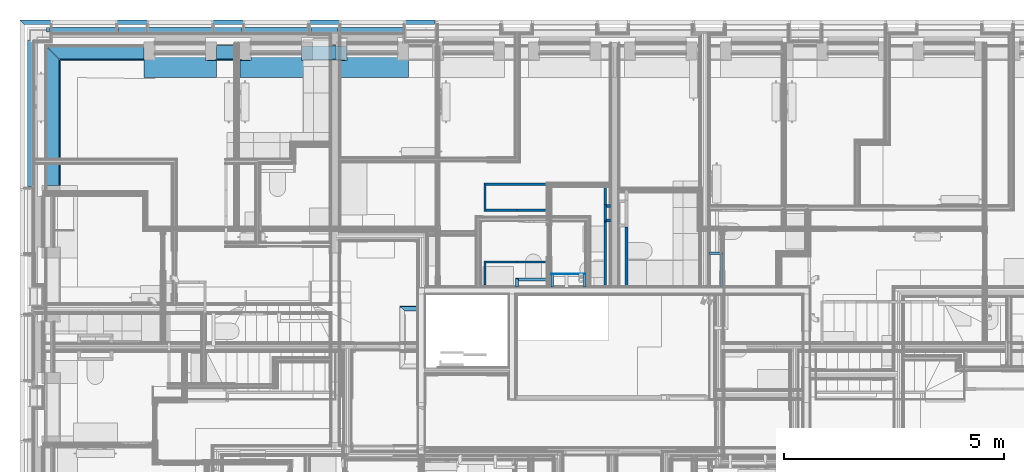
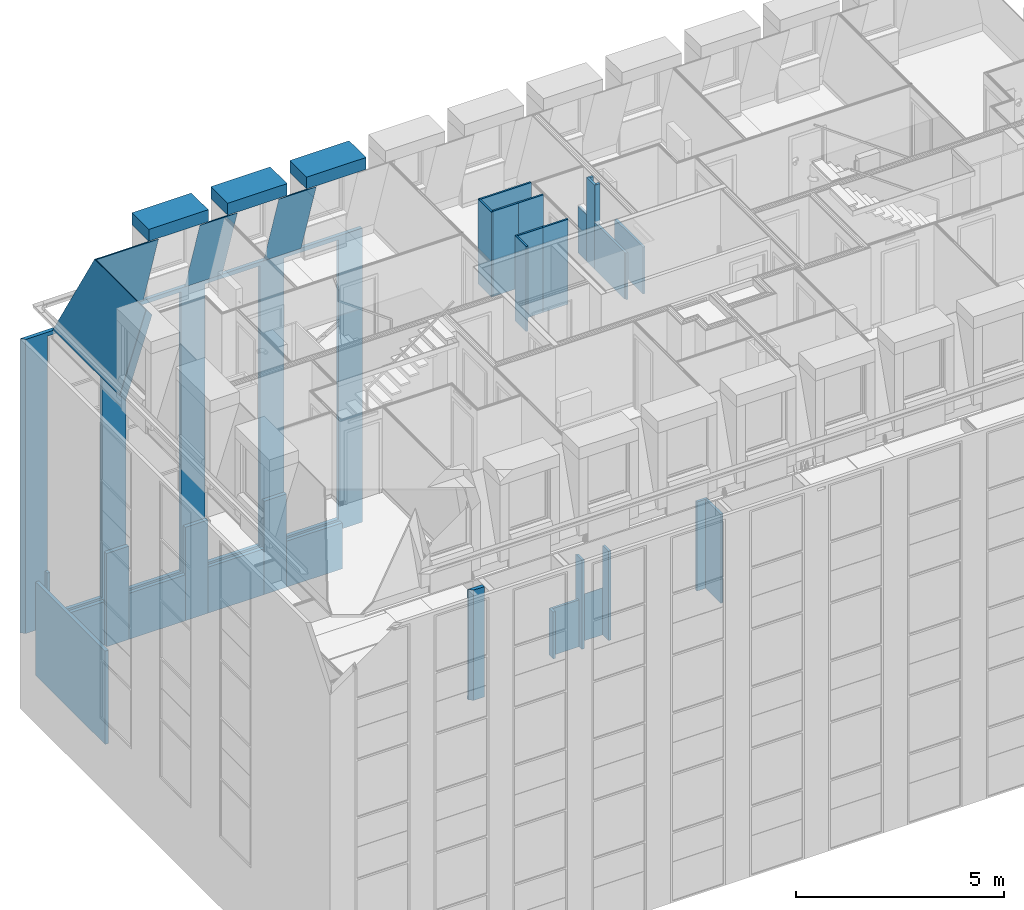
# One storey, part 4 of 169: 42 walls, 4 openings.
"""IFC2X3 building model written with IfcOpenShell, lengths in metres."""

from ifc_helpers import new_model, entity, si_unit, converted_unit, derived_unit, money_unit, direction, frame, frame_2d, origin_with_axes, place, context, subcontext, project, spatial, polyline, rectangle, outline, extrude, clip, halfspace, bounded_halfspace, material, layer, layer_set, layer_usage, type_object, element, save


model = new_model("IFC2X3")

# Units and contexts
model_context = context("Model", 3, precision=1e-05, world=origin_with_axes(), true_north=direction((0.0, 1.0)))
body_context = subcontext(model_context, "Body", "Model", "MODEL_VIEW", scale=1.0)
ifc_project = project(units=[si_unit("LENGTHUNIT", "METRE"), si_unit("AREAUNIT", "SQUARE_METRE"), si_unit("VOLUMEUNIT", "CUBIC_METRE"), si_unit("ABSORBEDDOSEUNIT", "GRAY"), si_unit("AMOUNTOFSUBSTANCEUNIT", "MOLE"), si_unit("DOSEEQUIVALENTUNIT", "SIEVERT"), si_unit("ELECTRICCAPACITANCEUNIT", "FARAD"), si_unit("ELECTRICCHARGEUNIT", "COULOMB"), si_unit("ELECTRICCONDUCTANCEUNIT", "SIEMENS"), si_unit("ELECTRICCURRENTUNIT", "AMPERE"), si_unit("ELECTRICRESISTANCEUNIT", "OHM"), si_unit("ELECTRICVOLTAGEUNIT", "VOLT"), si_unit("ENERGYUNIT", "JOULE"), si_unit("FORCEUNIT", "NEWTON"), si_unit("FREQUENCYUNIT", "HERTZ"), si_unit("ILLUMINANCEUNIT", "LUX"), si_unit("INDUCTANCEUNIT", "HENRY"), si_unit("LUMINOUSFLUXUNIT", "LUMEN"), si_unit("LUMINOUSINTENSITYUNIT", "CANDELA"), si_unit("MAGNETICFLUXDENSITYUNIT", "TESLA"), si_unit("MAGNETICFLUXUNIT", "WEBER"), si_unit("MASSUNIT", "GRAM"), converted_unit("PLANEANGLEUNIT", "degree", entity("IfcReal", 0.0174532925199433), si_unit("PLANEANGLEUNIT", "RADIAN"), dimensions=[0, 0, 0, 0, 0, 0, 0]), si_unit("POWERUNIT", "WATT"), si_unit("PRESSUREUNIT", "PASCAL"), si_unit("RADIOACTIVITYUNIT", "BECQUEREL"), si_unit("SOLIDANGLEUNIT", "STERADIAN"), si_unit("THERMODYNAMICTEMPERATUREUNIT", "KELVIN"), si_unit("TIMEUNIT", "SECOND"), derived_unit("ACCELERATIONUNIT", [(si_unit("LENGTHUNIT", "METRE"), 1), (si_unit("TIMEUNIT", "SECOND"), -2)]), derived_unit("ANGULARVELOCITYUNIT", [(converted_unit("PLANEANGLEUNIT", "degree", entity("IfcReal", 0.0174532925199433), si_unit("PLANEANGLEUNIT", "RADIAN"), dimensions=[0, 0, 0, 0, 0, 0, 0]), 1), (si_unit("TIMEUNIT", "SECOND"), -1)]), derived_unit("CURVATUREUNIT", [(converted_unit("PLANEANGLEUNIT", "degree", entity("IfcReal", 0.0174532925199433), si_unit("PLANEANGLEUNIT", "RADIAN"), dimensions=[0, 0, 0, 0, 0, 0, 0]), 1), (si_unit("LENGTHUNIT", "METRE"), -1)]), derived_unit("DYNAMICVISCOSITYUNIT", [(si_unit("PRESSUREUNIT", "PASCAL"), 1), (si_unit("TIMEUNIT", "SECOND"), 1)]), derived_unit("HEATFLUXDENSITYUNIT", [(si_unit("POWERUNIT", "WATT"), 1), (si_unit("LENGTHUNIT", "METRE"), -2)]), derived_unit("HEATINGVALUEUNIT", [(si_unit("ENERGYUNIT", "JOULE"), 1), (si_unit("MASSUNIT", "GRAM"), -1)]), derived_unit("INTEGERCOUNTRATEUNIT", [(si_unit("TIMEUNIT", "SECOND"), -1)]), derived_unit("IONCONCENTRATIONUNIT", [(si_unit("MASSUNIT", "GRAM"), 1), (si_unit("VOLUMEUNIT", "CUBIC_METRE"), -1)]), derived_unit("ISOTHERMALMOISTURECAPACITYUNIT", [(si_unit("VOLUMEUNIT", "CUBIC_METRE"), 1), (si_unit("MASSUNIT", "GRAM"), -1)]), derived_unit("KINEMATICVISCOSITYUNIT", [(si_unit("AREAUNIT", "SQUARE_METRE"), 1), (si_unit("TIMEUNIT", "SECOND"), -1)]), derived_unit("LINEARFORCEUNIT", [(si_unit("FORCEUNIT", "NEWTON"), 1), (si_unit("LENGTHUNIT", "METRE"), -1)]), derived_unit("LINEARMOMENTUNIT", [(si_unit("FORCEUNIT", "NEWTON"), 1), (si_unit("LENGTHUNIT", "METRE"), -1)]), derived_unit("LINEARSTIFFNESSUNIT", [(si_unit("FORCEUNIT", "NEWTON"), 1), (si_unit("LENGTHUNIT", "METRE"), -1)]), derived_unit("LINEARVELOCITYUNIT", [(si_unit("LENGTHUNIT", "METRE"), 1), (si_unit("TIMEUNIT", "SECOND"), -1)]), derived_unit("LUMINOUSINTENSITYDISTRIBUTIONUNIT", [(si_unit("LUMINOUSINTENSITYUNIT", "CANDELA"), 1), (si_unit("LUMINOUSFLUXUNIT", "LUMEN"), -1)]), derived_unit("MASSDENSITYUNIT", [(si_unit("MASSUNIT", "GRAM"), 1), (si_unit("VOLUMEUNIT", "CUBIC_METRE"), -1)]), derived_unit("MASSFLOWRATEUNIT", [(si_unit("MASSUNIT", "GRAM"), 1), (si_unit("TIMEUNIT", "SECOND"), -1)]), derived_unit("MASSPERLENGTHUNIT", [(si_unit("MASSUNIT", "GRAM"), 1), (si_unit("LENGTHUNIT", "METRE"), -1)]), derived_unit("MODULUSOFELASTICITYUNIT", [(si_unit("FORCEUNIT", "NEWTON"), 1), (si_unit("AREAUNIT", "SQUARE_METRE"), -1)]), derived_unit("MODULUSOFLINEARSUBGRADEREACTIONUNIT", [(si_unit("FORCEUNIT", "NEWTON"), 1), (si_unit("LENGTHUNIT", "METRE"), -2)]), derived_unit("MODULUSOFROTATIONALSUBGRADEREACTIONUNIT", [(si_unit("FORCEUNIT", "NEWTON"), 1), (si_unit("LENGTHUNIT", "METRE"), 1)]), derived_unit("MODULUSOFSUBGRADEREACTIONUNIT", [(si_unit("FORCEUNIT", "NEWTON"), 1), (si_unit("VOLUMEUNIT", "CUBIC_METRE"), -1)]), derived_unit("MOISTUREDIFFUSIVITYUNIT", [(si_unit("VOLUMEUNIT", "CUBIC_METRE"), 1), (si_unit("TIMEUNIT", "SECOND"), -1)]), derived_unit("MOLECULARWEIGHTUNIT", [(si_unit("MASSUNIT", "GRAM"), 1), (si_unit("AMOUNTOFSUBSTANCEUNIT", "MOLE"), -1)]), derived_unit("PLANARFORCEUNIT", [(si_unit("FORCEUNIT", "NEWTON"), 1), (si_unit("LENGTHUNIT", "METRE"), -2)]), derived_unit("ROTATIONALFREQUENCYUNIT", [(si_unit("TIMEUNIT", "SECOND"), -1)]), derived_unit("ROTATIONALMASSUNIT", [(si_unit("MASSUNIT", "GRAM"), 1), (si_unit("LENGTHUNIT", "METRE"), 2)]), derived_unit("ROTATIONALSTIFFNESSUNIT", [(si_unit("FORCEUNIT", "NEWTON"), 1), (si_unit("LENGTHUNIT", "METRE"), 1), (converted_unit("PLANEANGLEUNIT", "degree", entity("IfcReal", 0.0174532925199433), si_unit("PLANEANGLEUNIT", "RADIAN"), dimensions=[0, 0, 0, 0, 0, 0, 0]), -1)]), derived_unit("SECTIONAREAINTEGRALUNIT", [(si_unit("LENGTHUNIT", "METRE"), 5)]), derived_unit("SECTIONMODULUSUNIT", [(si_unit("LENGTHUNIT", "METRE"), 3)]), derived_unit("SHEARMODULUSUNIT", [(si_unit("FORCEUNIT", "NEWTON"), 1), (si_unit("AREAUNIT", "SQUARE_METRE"), -1)]), derived_unit("SOUNDPOWERUNIT", [(si_unit("ENERGYUNIT", "JOULE"), 1), (si_unit("TIMEUNIT", "SECOND"), -1)]), derived_unit("SPECIFICHEATCAPACITYUNIT", [(si_unit("FORCEUNIT", "NEWTON"), 1), (si_unit("MASSUNIT", "GRAM"), -1), (si_unit("THERMODYNAMICTEMPERATUREUNIT", "KELVIN"), -1)]), derived_unit("TEMPERATUREGRADIENTUNIT", [(si_unit("THERMODYNAMICTEMPERATUREUNIT", "KELVIN"), 1), (si_unit("LENGTHUNIT", "METRE"), -1)]), derived_unit("THERMALADMITTANCEUNIT", [(si_unit("POWERUNIT", "WATT"), 1), (si_unit("AREAUNIT", "SQUARE_METRE"), -1), (si_unit("THERMODYNAMICTEMPERATUREUNIT", "KELVIN"), -1)]), derived_unit("THERMALCONDUCTANCEUNIT", [(si_unit("POWERUNIT", "WATT"), 1), (si_unit("LENGTHUNIT", "METRE"), -1), (si_unit("THERMODYNAMICTEMPERATUREUNIT", "KELVIN"), -1)]), derived_unit("THERMALEXPANSIONCOEFFICIENTUNIT", [(si_unit("THERMODYNAMICTEMPERATUREUNIT", "KELVIN"), -1)]), derived_unit("THERMALRESISTANCEUNIT", [(si_unit("AREAUNIT", "SQUARE_METRE"), 1), (si_unit("POWERUNIT", "WATT"), -1)]), derived_unit("THERMALTRANSMITTANCEUNIT", [(si_unit("POWERUNIT", "WATT"), 1), (si_unit("AREAUNIT", "SQUARE_METRE"), -1), (si_unit("THERMODYNAMICTEMPERATUREUNIT", "KELVIN"), -1)]), derived_unit("TORQUEUNIT", [(si_unit("FORCEUNIT", "NEWTON"), 1), (si_unit("LENGTHUNIT", "METRE"), 1)]), derived_unit("VAPORPERMEABILITYUNIT", [(si_unit("MASSUNIT", "GRAM"), 1), (si_unit("TIMEUNIT", "SECOND"), -1)]), derived_unit("VOLUMETRICFLOWRATEUNIT", [(si_unit("VOLUMEUNIT", "CUBIC_METRE"), 1), (si_unit("TIMEUNIT", "SECOND"), -1)]), derived_unit("WARPINGCONSTANTUNIT", [(si_unit("LENGTHUNIT", "METRE"), 6)]), derived_unit("WARPINGMOMENTUNIT", [(si_unit("FORCEUNIT", "NEWTON"), 1), (si_unit("LENGTHUNIT", "METRE"), 2)]), money_unit("GBP")], contexts=[model_context])

# Site, building, storey
site_placement = place(None, origin_with_axes())
site = spatial("IfcSite", under=ifc_project, at=site_placement, Name="Site", CompositionType="ELEMENT")
building_placement = place(site_placement, origin_with_axes())
building = spatial("IfcBuilding", under=site, at=building_placement, Name="Building01", CompositionType="ELEMENT")
storey_placement = place(building_placement, frame((0.0, 0.0, 5.15), z_axis=(0.0, 0.0, 1.0), x_axis=(1.0, 0.0, 0.0)))
storey = spatial("IfcBuildingStorey", under=building, at=storey_placement, Name="1F", CompositionType="ELEMENT", Elevation=5.15)

# Wall, openings
ifc_material_1 = material(Name="A_BSUK_WallsExternal_Brick")
ifc_layer_1 = layer(ifc_material_1, 0.1, ventilated=False)
ifc_layer_set_1 = layer_set([ifc_layer_1])
ifc_layer_usage_1 = layer_usage(ifc_layer_set_1, "AXIS2", "POSITIVE", 0.0)
wall_type_1 = type_object("IfcWallType", Name="A-Walls-ExternalBrick", PredefinedType="NOTDEFINED")
wall_1_placement = place(storey_placement, frame((9.443277, 14.9, 1.035), z_axis=(0.0, 0.0, 1.0), x_axis=(-1.0, 0.0, 0.0)))
wall_1 = element("IfcWallStandardCase", 1, at=wall_1_placement, inside=storey, type_object=wall_type_1, material=ifc_layer_usage_1, Name="A-Walls-ExternalBrick", ObjectType="A-Walls-ExternalBrick", context=body_context, shape_type="SweptSolid", body=[
    extrude(outline(polyline([(9.343277, 0.1), (0.0, 0.1), (0.0, 0.0), (9.443277, 0.0), (9.343277, 0.1)])), origin_with_axes(), (0.0, 0.0, 1.0), 8.635238),
])
opening_1_placement = place(wall_1_placement, frame((0.653277, 0.0, 0.315918), z_axis=(0.0, 0.0, 1.0), x_axis=(1.0, 0.0, 0.0)))
element("IfcOpeningElement", 2, at=opening_1_placement, cuts=wall_1, Name="Opening", ObjectType="Opening", context=body_context, shape_type="SweptSolid", body=[
    extrude(rectangle(XDim=1.52, YDim=8.2, at=frame_2d((-0.76, 4.1), x_axis=(1.0, 0.0))), frame((0.0, 0.0, 0.0), z_axis=(0.0, 1.0, 0.0), x_axis=(-1.0, 0.0, 0.0)), (0.0, 0.0, 1.0), 0.1),
])
opening_2_placement = place(wall_1_placement, frame((2.843277, 0.0, 0.315918), z_axis=(0.0, 0.0, 1.0), x_axis=(1.0, 0.0, 0.0)))
element("IfcOpeningElement", 3, at=opening_2_placement, cuts=wall_1, Name="Opening", ObjectType="Opening", context=body_context, shape_type="SweptSolid", body=[
    extrude(rectangle(XDim=1.52, YDim=8.2, at=frame_2d((-0.76, 4.1), x_axis=(1.0, 0.0))), frame((0.0, 0.0, 0.0), z_axis=(0.0, 1.0, 0.0), x_axis=(-1.0, 0.0, 0.0)), (0.0, 0.0, 1.0), 0.1),
])
opening_3_placement = place(wall_1_placement, frame((5.033277, 0.0, 0.315918), z_axis=(0.0, 0.0, 1.0), x_axis=(1.0, 0.0, 0.0)))
element("IfcOpeningElement", 4, at=opening_3_placement, cuts=wall_1, Name="Opening", ObjectType="Opening", context=body_context, shape_type="SweptSolid", body=[
    extrude(rectangle(XDim=1.52, YDim=8.2, at=frame_2d((-0.76, 4.1), x_axis=(1.0, 0.0))), frame((0.0, 0.0, 0.0), z_axis=(0.0, 1.0, 0.0), x_axis=(-1.0, 0.0, 0.0)), (0.0, 0.0, 1.0), 0.1),
])
opening_4_placement = place(wall_1_placement, frame((7.223277, 0.0, 0.315918), z_axis=(0.0, 0.0, 1.0), x_axis=(1.0, 0.0, 0.0)))
element("IfcOpeningElement", 5, at=opening_4_placement, cuts=wall_1, Name="Opening", ObjectType="Opening", context=body_context, shape_type="SweptSolid", body=[
    extrude(rectangle(XDim=1.52, YDim=8.2, at=frame_2d((-0.76, 4.1), x_axis=(1.0, 0.0))), frame((0.0, 0.0, 0.0), z_axis=(0.0, 1.0, 0.0), x_axis=(-1.0, 0.0, 0.0)), (0.0, 0.0, 1.0), 0.1),
])

# Walls
ifc_material_2 = material(Name="A_BSUK_WallsExternal_Block")
ifc_layer_2 = layer(ifc_material_2, 0.1, ventilated=False)
ifc_layer_set_2 = layer_set([ifc_layer_2])
ifc_layer_usage_2 = layer_usage(ifc_layer_set_2, "AXIS2", "POSITIVE", 0.0)
wall_type_2 = type_object("IfcWallType", Name="A-Walls-ExternalBlock", PredefinedType="NOTDEFINED")
wall_2_placement = place(storey_placement, frame((0.6, 14.63, 0.0), z_axis=(0.0, 0.0, 1.0), x_axis=(1.0, 0.0, 0.0)))
element("IfcWallStandardCase", 6, at=wall_2_placement, inside=storey, type_object=wall_type_2, material=ifc_layer_usage_2, Name="A-Walls-ExternalBlock", ObjectType="A-Walls-ExternalBlock", context=body_context, shape_type="SweptSolid", body=[
    extrude(rectangle(XDim=0.077, YDim=0.1, at=frame_2d((0.0385, 0.05), x_axis=(-1.0, 0.0))), origin_with_axes(), (0.0, 0.0, 1.0), 2.74),
])
wall_3_placement = place(storey_placement, frame((0.17, 14.45, 0.0), z_axis=(0.0, 0.0, 1.0), x_axis=(0.0, -1.0, 0.0)))
element("IfcWallStandardCase", 7, at=wall_3_placement, inside=storey, type_object=wall_type_2, material=ifc_layer_usage_2, Name="A-Walls-ExternalBlock", ObjectType="A-Walls-ExternalBlock", context=body_context, shape_type="SweptSolid", body=[
    extrude(rectangle(XDim=3.347, YDim=0.1, at=frame_2d((1.6735, 0.05), x_axis=(-1.0, 0.0))), origin_with_axes(), (0.0, 0.0, 1.0), 2.74),
])
for number, where, z_axis, x_axis, name in (
    (8, (2.243, 14.63, 0.0), (0.0, 0.0, 1.0), (1.0, 0.0, 0.0), "A-Walls-ExternalBlock"),
    (9, (4.433, 14.63, 0.0), (0.0, 0.0, 1.0), (1.0, 0.0, 0.0), "A-Walls-ExternalBlock"),
):
    element("IfcWallStandardCase", number, at=place(storey_placement, frame(where, z_axis=z_axis, x_axis=x_axis)), inside=storey, type_object=wall_type_2, material=ifc_layer_usage_2, Name=name, ObjectType="A-Walls-ExternalBlock", context=body_context, shape_type="SweptSolid", body=[
        extrude(rectangle(XDim=0.624, YDim=0.1, at=frame_2d((0.312, 0.05), x_axis=(-1.0, 0.0))), origin_with_axes(), (0.0, 0.0, 1.0), 2.74),
    ])
wall_4_placement = place(storey_placement, frame((6.622876, 14.63, 0.0), z_axis=(0.0, 0.0, 1.0), x_axis=(1.0, 0.0, 0.0)))
element("IfcWallStandardCase", 10, at=wall_4_placement, inside=storey, type_object=wall_type_2, material=ifc_layer_usage_2, Name="A-Walls-ExternalBlock", ObjectType="A-Walls-ExternalBlock", context=body_context, shape_type="SweptSolid", body=[
    extrude(rectangle(XDim=0.624124, YDim=0.1, at=frame_2d((0.312062, 0.05), x_axis=(-1.0, 0.0))), origin_with_axes(), (0.0, 0.0, 1.0), 2.74),
])
wall_5_placement = place(storey_placement, frame((0.677, 14.63, 0.0), z_axis=(0.0, 0.0, 1.0), x_axis=(1.0, 0.0, 0.0)))
element("IfcWallStandardCase", 11, at=wall_5_placement, inside=storey, type_object=wall_type_2, material=ifc_layer_usage_2, Name="A-Walls-ExternalBlock", ObjectType="A-Walls-ExternalBlock", context=body_context, shape_type="SweptSolid", body=[
    extrude(rectangle(XDim=1.518, YDim=0.1, at=frame_2d((0.759, 0.05), x_axis=(-1.0, 0.0))), origin_with_axes(), (0.0, 0.0, 1.0), 1.35),
])
for number, where, z_axis, x_axis, name in (
    (12, (2.867, 14.63, 0.0), (0.0, 0.0, 1.0), (1.0, 0.0, 0.0), "A-Walls-ExternalBlock"),
    (13, (5.056876, 14.63, 0.0), (0.0, 0.0, 1.0), (1.0, 0.0, 0.0), "A-Walls-ExternalBlock"),
    (14, (7.224, 14.63, 0.0), (0.0, 0.0, 1.0), (1.0, 0.0, 0.0), "A-Walls-ExternalBlock"),
):
    element("IfcWallStandardCase", number, at=place(storey_placement, frame(where, z_axis=z_axis, x_axis=x_axis)), inside=storey, type_object=wall_type_2, material=ifc_layer_usage_2, Name=name, ObjectType="A-Walls-ExternalBlock", context=body_context, shape_type="SweptSolid", body=[
        extrude(rectangle(XDim=1.566, YDim=0.1, at=frame_2d((0.783, 0.05), x_axis=(1.0, 0.0))), origin_with_axes(), (0.0, 0.0, 1.0), 1.35),
    ])
ifc_material_3 = material(Name="A_BSUK_WallsInternal")
ifc_layer_3 = layer(ifc_material_3, 0.05, ventilated=False)
ifc_layer_set_3 = layer_set([ifc_layer_3])
ifc_layer_usage_3 = layer_usage(ifc_layer_set_3, "AXIS2", "POSITIVE", 0.0)
wall_type_3 = type_object("IfcWallType", Name="A-Walls-Internal", PredefinedType="NOTDEFINED")
wall_6_placement = place(storey_placement, frame((12.017381, 9.41, 9.83), z_axis=(0.0, 0.0, 1.0), x_axis=(-1.0, 0.0, 0.0)))
element("IfcWallStandardCase", 15, at=wall_6_placement, inside=storey, type_object=wall_type_3, material=ifc_layer_usage_3, Name="A-Walls-Internal", ObjectType="A-Walls-Internal", context=body_context, shape_type="SweptSolid", body=[
    extrude(rectangle(XDim=0.05, YDim=0.7, at=frame_2d((0.35, 0.025), x_axis=(0.0, -1.0))), origin_with_axes(), (0.0, 0.0, 1.0), 2.5),
])
wall_7_placement = place(storey_placement, frame((11.317381, 9.41, 9.83), z_axis=(0.0, 0.0, 1.0), x_axis=(-1.0, 0.0, 0.0)))
element("IfcWallStandardCase", 16, at=wall_7_placement, inside=storey, type_object=wall_type_3, material=ifc_layer_usage_3, Name="A-Walls-Internal", ObjectType="A-Walls-Internal", context=body_context, shape_type="SweptSolid", body=[
    extrude(rectangle(XDim=0.7, YDim=0.05, at=frame_2d((0.35, 0.025), x_axis=(-1.0, 0.0))), origin_with_axes(), (0.0, 0.0, 1.0), 2.5),
])
wall_8_placement = place(storey_placement, frame((10.567381, 9.41, 9.83), z_axis=(0.0, 0.0, 1.0), x_axis=(0.0, -1.0, 0.0)))
element("IfcWallStandardCase", 17, at=wall_8_placement, inside=storey, type_object=wall_type_3, material=ifc_layer_usage_3, Name="A-Walls-Internal", ObjectType="A-Walls-Internal", context=body_context, shape_type="SweptSolid", body=[
    extrude(rectangle(XDim=0.05, YDim=0.542367, at=frame_2d((0.271184, 0.025), x_axis=(0.0, -1.0))), origin_with_axes(), (0.0, 0.0, 1.0), 2.5),
])
wall_9_placement = place(storey_placement, frame((11.317381, 10.593849, 9.83), z_axis=(0.0, 0.0, 1.0), x_axis=(-1.0, 0.0, 0.0)))
element("IfcWallStandardCase", 18, at=wall_9_placement, inside=storey, type_object=wall_type_3, material=ifc_layer_usage_3, Name="A-Walls-Internal", ObjectType="A-Walls-Internal", context=body_context, shape_type="SweptSolid", body=[
    extrude(rectangle(XDim=0.7, YDim=0.05, at=frame_2d((0.35, 0.025), x_axis=(-1.0, 0.0))), origin_with_axes(), (0.0, 0.0, 1.0), 2.5),
])
wall_10_placement = place(storey_placement, frame((12.017381, 10.593849, 9.83), z_axis=(0.0, 0.0, 1.0), x_axis=(-1.0, 0.0, 0.0)))
element("IfcWallStandardCase", 19, at=wall_10_placement, inside=storey, type_object=wall_type_3, material=ifc_layer_usage_3, Name="A-Walls-Internal", ObjectType="A-Walls-Internal", context=body_context, shape_type="SweptSolid", body=[
    extrude(rectangle(XDim=0.05, YDim=0.7, at=frame_2d((0.35, 0.025), x_axis=(0.0, -1.0))), origin_with_axes(), (0.0, 0.0, 1.0), 2.5),
])
wall_11_placement = place(storey_placement, frame((10.567381, 11.183849, 9.83), z_axis=(0.0, 0.0, 1.0), x_axis=(0.0, -1.0, 0.0)))
element("IfcWallStandardCase", 20, at=wall_11_placement, inside=storey, type_object=wall_type_3, material=ifc_layer_usage_3, Name="A-Walls-Internal", ObjectType="A-Walls-Internal", context=body_context, shape_type="SweptSolid", body=[
    extrude(outline(polyline([(0.64, 0.05), (0.05, 0.05), (0.0, 0.0), (0.64, 0.0), (0.64, 0.05)])), origin_with_axes(), (0.0, 0.0, 1.0), 2.5),
])
wall_12_placement = place(storey_placement, frame((12.017381, 11.183849, 9.83), z_axis=(0.0, 0.0, 1.0), x_axis=(-1.0, 0.0, 0.0)))
element("IfcWallStandardCase", 21, at=wall_12_placement, inside=storey, type_object=wall_type_3, material=ifc_layer_usage_3, Name="A-Walls-Internal", ObjectType="A-Walls-Internal", context=body_context, shape_type="SweptSolid", body=[
    extrude(outline(polyline([(1.4, 0.05), (0.0, 0.05), (0.0, 0.0), (1.45, 0.0), (1.4, 0.05)])), origin_with_axes(), (0.0, 0.0, 1.0), 2.5),
])
ifc_material_4 = material(Name="A_BSUK_OpeningsClearance")
ifc_layer_4 = layer(ifc_material_4, 0.05, ventilated=False)
ifc_material_5 = material(Name="A_BSUK_Walls_Timber")
ifc_layer_5 = layer(ifc_material_5, 0.015, ventilated=False)
ifc_layer_set_4 = layer_set([ifc_layer_4, ifc_layer_5])
ifc_layer_usage_4 = layer_usage(ifc_layer_set_4, "AXIS2", "POSITIVE", 0.0)
wall_type_4 = type_object("IfcWallType", Name="SHE_A-Walls_Type05c_PreWallShell_65mm", PredefinedType="NOTDEFINED")
wall_13_placement = place(storey_placement, frame((12.153871, 8.82, 0.0), z_axis=(0.0, 0.0, 1.0), x_axis=(0.0, 1.0, 0.0)))
element("IfcWallStandardCase", 22, at=wall_13_placement, inside=storey, type_object=wall_type_4, material=ifc_layer_usage_4, Name="5C", ObjectType="SHE_A-Walls_Type05c_PreWallShell_65mm", context=body_context, shape_type="SweptSolid", body=[
    extrude(outline(polyline([(0.285, 0.05), (0.3, 0.05), (0.3, 0.065), (0.0, 0.065), (0.0, 0.0), (0.285, 0.0), (0.285, 0.05)])), origin_with_axes(), (0.0, 0.0, 1.0), 2.615),
])
ifc_layer_set_5 = layer_set([ifc_layer_5, ifc_layer_4])
ifc_layer_usage_5 = layer_usage(ifc_layer_set_5, "AXIS2", "POSITIVE", 0.0)
wall_14_placement = place(storey_placement, frame((12.828585, 8.82, 0.0), z_axis=(0.0, 0.0, 1.0), x_axis=(0.0, 1.0, 0.0)))
element("IfcWallStandardCase", 23, at=wall_14_placement, inside=storey, type_object=wall_type_4, material=ifc_layer_usage_5, Name="5C", ObjectType="SHE_A-Walls_Type05c_PreWallShell_65mm", context=body_context, shape_type="SweptSolid", body=[
    extrude(outline(polyline([(0.285, -0.05), (0.285, 0.0), (0.0, 0.0), (0.0, -0.065), (0.3, -0.065), (0.3, -0.05), (0.285, -0.05)])), origin_with_axes(), (0.0, 0.0, 1.0), 2.615),
])
wall_15_placement = place(storey_placement, frame((15.943132, 9.555, 0.0), z_axis=(0.0, 0.0, 1.0), x_axis=(0.0, -1.0, 0.0)))
element("IfcWallStandardCase", 24, at=wall_15_placement, inside=storey, type_object=wall_type_4, material=ifc_layer_usage_4, Name="5C", ObjectType="SHE_A-Walls_Type05c_PreWallShell_65mm", context=body_context, shape_type="SweptSolid", body=[
    extrude(outline(polyline([(0.72, 0.05), (0.72, 0.065), (-0.065, 0.065), (-0.065, 0.05), (0.0, 0.05), (0.0, 0.0), (0.735, 0.0), (0.735, 0.05), (0.72, 0.05)])), origin_with_axes(), (0.0, 0.0, 1.0), 2.615),
])
wall_16_placement = place(storey_placement, frame((15.708132, 9.555, 0.0), z_axis=(0.0, 0.0, 1.0), x_axis=(1.0, 0.0, 0.0)))
element("IfcWallStandardCase", 25, at=wall_16_placement, inside=storey, type_object=wall_type_4, material=ifc_layer_usage_4, Name="5C", ObjectType="SHE_A-Walls_Type05c_PreWallShell_65mm", context=body_context, shape_type="SweptSolid", body=[
    extrude(rectangle(XDim=0.285, YDim=0.065, at=frame_2d((0.1425, 0.0325), x_axis=(-1.0, 0.0))), origin_with_axes(), (0.0, 0.0, 1.0), 2.615),
])
wall_17_placement = place(storey_placement, frame((12.103871, 8.954996, 0.0), z_axis=(0.0, 0.0, 1.0), x_axis=(-1.0, 0.0, 0.0)))
element("IfcWallStandardCase", 26, at=wall_17_placement, inside=storey, type_object=wall_type_4, material=ifc_layer_usage_5, Name="5C", ObjectType="SHE_A-Walls_Type05c_PreWallShell_65mm", context=body_context, shape_type="SweptSolid", body=[
    extrude(outline(polyline([(0.749998, -0.05), (0.749998, 0.0), (0.0, 0.0), (0.0, -0.05), (0.015, -0.05), (0.015, -0.065), (0.799998, -0.065), (0.799998, -0.05), (0.749998, -0.05)])), origin_with_axes(), (0.0, 0.0, 1.0), 1.375),
])
wall_18_placement = place(storey_placement, frame((11.353873, 8.82, 0.0), z_axis=(0.0, 0.0, 1.0), x_axis=(0.0, 1.0, 0.0)))
element("IfcWallStandardCase", 27, at=wall_18_placement, inside=storey, type_object=wall_type_4, material=ifc_layer_usage_4, Name="5C", ObjectType="SHE_A-Walls_Type05c_PreWallShell_65mm", context=body_context, shape_type="SweptSolid", body=[
    extrude(outline(polyline([(0.184996, 0.05), (0.199996, 0.05), (0.199996, 0.065), (0.0, 0.065), (0.0, 0.0), (0.184996, 0.0), (0.184996, 0.05)])), origin_with_axes(), (0.0, 0.0, 1.0), 1.375),
])
wall_19_placement = place(storey_placement, frame((13.362381, 10.683806, 9.83), z_axis=(0.0, 0.0, 1.0), x_axis=(0.0, -1.0, 0.0)))
element("IfcWallStandardCase", 28, at=wall_19_placement, inside=storey, type_object=wall_type_4, material=ifc_layer_usage_5, Name="5C", ObjectType="SHE_A-Walls_Type05c_PreWallShell_65mm", context=body_context, shape_type="SweptSolid", body=[
    extrude(outline(polyline([(0.364957, -0.05), (0.364957, 0.0), (0.0, 0.0), (0.0, -0.05), (-0.015, -0.05), (-0.015, -0.065), (0.379957, -0.065), (0.379957, -0.05), (0.364957, -0.05)])), origin_with_axes(), (0.0, 0.0, 1.0), 2.468),
])
wall_20_placement = place(storey_placement, frame((13.45, 10.368849, 9.83), z_axis=(0.0, 0.0, 1.0), x_axis=(-1.0, 0.0, 0.0)))
element("IfcWallStandardCase", 29, at=wall_20_placement, inside=storey, type_object=wall_type_4, material=ifc_layer_usage_4, Name="5C", ObjectType="SHE_A-Walls_Type05c_PreWallShell_65mm", context=body_context, shape_type="SweptSolid", body=[
    extrude(outline(polyline([(0.087619, 0.05), (0.137619, 0.05), (0.137619, 0.065), (0.0, 0.065), (0.0, 0.0), (0.087619, 0.0), (0.087619, 0.05)])), origin_with_axes(), (0.0, 0.0, 1.0), 2.468),
])
wall_21_placement = place(storey_placement, frame((13.45, 10.633806, 9.83), z_axis=(0.0, 0.0, 1.0), x_axis=(-1.0, 0.0, 0.0)))
element("IfcWallStandardCase", 30, at=wall_21_placement, inside=storey, type_object=wall_type_4, material=ifc_layer_usage_5, Name="5C", ObjectType="SHE_A-Walls_Type05c_PreWallShell_65mm", context=body_context, shape_type="SweptSolid", body=[
    extrude(outline(polyline([(0.08763, -0.05), (0.08763, 0.0), (0.0, 0.0), (0.0, -0.065), (0.137619, -0.065), (0.137619, -0.05), (0.08763, -0.05)])), origin_with_axes(), (0.0, 0.0, 1.0), 2.468),
])
wall_22_placement = place(storey_placement, frame((13.36237, 10.633806, 9.83), z_axis=(0.0, 0.0, 1.0), x_axis=(0.0, 1.0, 0.0)))
element("IfcWallStandardCase", 31, at=wall_22_placement, inside=storey, type_object=wall_type_4, material=ifc_layer_usage_4, Name="5C", ObjectType="SHE_A-Walls_Type05c_PreWallShell_65mm", context=body_context, shape_type="SweptSolid", body=[
    extrude(outline(polyline([(0.470043, 0.065), (0.065, 0.065), (0.065, 0.05), (0.0, 0.05), (0.0, 0.0), (0.470043, 0.0), (0.470043, 0.065)])), origin_with_axes(), (0.0, 0.0, 1.0), 1.375),
])
wall_23_placement = place(storey_placement, frame((13.362381, 8.82, 9.83), z_axis=(0.0, 0.0, 1.0), x_axis=(0.0, 1.0, 0.0)))
element("IfcWallStandardCase", 32, at=wall_23_placement, inside=storey, type_object=wall_type_4, material=ifc_layer_usage_4, Name="5C", ObjectType="SHE_A-Walls_Type05c_PreWallShell_65mm", context=body_context, shape_type="SweptSolid", body=[
    extrude(outline(polyline([(1.483849, 0.05), (1.483849, 0.065), (0.040801, 0.065), (0.040801, 0.05), (0.0, 0.05), (0.0, 0.0), (1.583849, 0.0), (1.583849, 0.05), (1.483849, 0.05)])), origin_with_axes(), (0.0, 0.0, 1.0), 1.375),
])
wall_24_placement = place(storey_placement, frame((13.784998, 8.82, 9.83), z_axis=(0.0, 0.0, 1.0), x_axis=(0.0, 1.0, 0.0)))
element("IfcWallStandardCase", 33, at=wall_24_placement, inside=storey, type_object=wall_type_4, material=ifc_layer_usage_5, Name="5C", ObjectType="SHE_A-Walls_Type05c_PreWallShell_65mm", context=body_context, shape_type="SweptSolid", body=[
    extrude(outline(polyline([(1.363789, 0.0), (0.0, 0.0), (0.0, -0.05), (0.029402, -0.05), (0.029402, -0.065), (1.363789, -0.065), (1.363789, 0.0)])), origin_with_axes(), (0.0, 0.0, 1.0), 1.375),
])
ifc_layer_set_6 = layer_set([ifc_layer_5])
ifc_layer_usage_6 = layer_usage(ifc_layer_set_6, "AXIS2", "POSITIVE", 0.0)
wall_type_5 = type_object("IfcWallType", Name="default", PredefinedType="NOTDEFINED")
wall_25_placement = place(storey_placement, frame((12.103871, 9.105, 0.0), z_axis=(0.0, 0.0, 1.0), x_axis=(1.0, 0.0, 0.0)))
element("IfcWallStandardCase", 34, at=wall_25_placement, inside=storey, type_object=wall_type_5, material=ifc_layer_usage_6, Name="default", ObjectType="default", context=body_context, shape_type="SweptSolid", body=[
    extrude(rectangle(XDim=0.774714, YDim=0.015, at=frame_2d((0.387357, 0.0075), x_axis=(-1.0, 0.0))), origin_with_axes(), (0.0, 0.0, 1.0), 1.375),
])
ifc_material_6 = material(Name="A_BSUK_WallInternal_Finishes_Plasterboard")
ifc_layer_6 = layer(ifc_material_6, 0.015, ventilated=False)
ifc_material_7 = material(Name="Air Cavity")
ifc_layer_7 = layer(ifc_material_7, 0.072, ventilated=False)
ifc_layer_set_7 = layer_set([ifc_layer_6, ifc_layer_7, ifc_layer_6, ifc_layer_5])
ifc_layer_usage_7 = layer_usage(ifc_layer_set_7, "AXIS2", "POSITIVE", 0.0)
wall_type_6 = type_object("IfcWallType", Name="SHE_A-Walls_Type04c_RiserWall_102mm_tall", PredefinedType="NOTDEFINED")
wall_26_placement = place(storey_placement, frame((8.658, 8.372405, 0.015), z_axis=(0.0, 0.0, 1.0), x_axis=(1.0, 0.0, 0.0)))
element("IfcWallStandardCase", 35, at=wall_26_placement, inside=storey, type_object=wall_type_6, material=ifc_layer_usage_7, Name="4C", ObjectType="SHE_A-Walls_Type04c_RiserWall_102mm_tall", context=body_context, shape_type="Clipping", body=[
    clip(clip(extrude(outline(polyline([(0.402, 0.015), (-0.015, 0.015), (0.0, 0.0), (0.0, -0.015), (0.015, -0.015), (0.102, -0.102), (0.402, -0.102), (0.402, 0.015)])), frame((0.0, 0.0, -0.015), z_axis=(0.0, 0.0, 1.0), x_axis=(1.0, 0.0, 0.0)), (0.0, 0.0, 1.0), 3.24), bounded_halfspace(frame((0.0, 0.0, 0.1), z_axis=(0.0, 0.0, 1.0), x_axis=(1.0, 0.0, 0.0)), False, frame((0.0, 0.0, 0.1), z_axis=(0.0, 0.0, 1.0), x_axis=(1.0, 0.0, 0.0)), polyline([(0.402, 0.015), (-0.015, 0.015), (0.0, 0.0), (0.402, 0.0), (0.402, 0.015)]))), bounded_halfspace(frame((0.0, 0.0, 0.0), z_axis=(0.0, 0.0, -1.0), x_axis=(-1.0, 0.0, 0.0)), False, frame((0.0, 0.0, 0.0), z_axis=(0.0, 0.0, -1.0), x_axis=(-1.0, 0.0, 0.0)), polyline([(-0.402, 0.0), (0.0, 0.0), (0.015, 0.015), (-0.402, 0.015), (-0.402, 0.0)]))),
])
ifc_material_8 = material(Name="A_BSUK_Roofs")
wall_type_7 = type_object("IfcWallType", Name="A-Walls-ExternalBlock", PredefinedType="NOTDEFINED")
for number, where, z_axis, x_axis, name in (
    (36, (2.820024, 14.400096, 12.679998), (1.0, 0.0, 0.0), (0.0, -1.0, 0.0), "7C"),
    (37, (5.010024, 14.400096, 12.679999), (1.0, 0.0, 0.0), (0.0, -1.0, 0.0), "7C"),
    (38, (7.200024, 14.400096, 12.679999), (1.0, 0.0, 0.0), (0.0, -1.0, 0.0), "7C"),
):
    element("IfcWall", number, at=place(storey_placement, frame(where, z_axis=z_axis, x_axis=x_axis)), inside=storey, type_object=wall_type_7, material=ifc_material_8, Name=name, ObjectType="A-Walls-ExternalBlock", context=body_context, shape_type="SweptSolid", body=[
        extrude(rectangle(XDim=0.81, YDim=0.349999, at=frame_2d((0.405, 0.174999), x_axis=(1.0, 0.0))), origin_with_axes(), (0.0, 0.0, 1.0), 1.65),
    ])
wall_type_8 = type_object("IfcWallType", Name="A-Walls-Internal", PredefinedType="NOTDEFINED")
wall_27_placement = place(storey_placement, frame((0.5788, 11.124915, 10.08), z_axis=(0.30901699, 0.0, 0.95105652), x_axis=(0.0, 1.0, 0.0)))
element("IfcWall", 39, at=wall_27_placement, inside=storey, type_object=wall_type_8, material=ifc_material_3, Name="7C", ObjectType="A-Walls-Internal", context=body_context, shape_type="Clipping", body=[
    clip(extrude(outline(polyline([(3.196285, 0.0), (0.0, 0.0), (0.0, -0.015), (3.182019, -0.015), (3.196285, 0.0)])), origin_with_axes(), (0.0, 0.0, 1.0), 2.373987), halfspace(frame((1.598142, -1.519924, 0.493853), z_axis=(-0.70710678, 0.67249851, -0.21850801), x_axis=(-0.68915176, -0.72461704, 0.0)), True)),
])
wall_28_placement = place(storey_placement, frame((0.5788, 14.3212, 10.08), z_axis=(0.0, -0.30901699, 0.95105652), x_axis=(1.0, 0.0, 0.0)))
element("IfcWall", 40, at=wall_28_placement, inside=storey, type_object=wall_type_8, material=ifc_material_3, Name="7C", ObjectType="A-Walls-Internal", context=body_context, shape_type="Clipping", body=[
    clip(extrude(outline(polyline([(2.241224, 0.0), (0.0, 0.0), (0.014266, -0.015), (2.241224, -0.015), (2.241224, 0.0)])), origin_with_axes(), (0.0, 0.0, 1.0), 2.373987), halfspace(frame((0.0, 0.0, 0.0), z_axis=(0.70710678, 0.67249851, -0.21850801), x_axis=(-0.68915176, 0.72461704, 0.0)), True)),
])
for number, where, z_axis, x_axis, name in (
    (41, (4.469976, 14.3212, 10.08), (0.0, -0.30901699, 0.95105652), (1.0, 0.0, 0.0), "7C"),
    (42, (6.659976, 14.3212, 10.08), (0.0, -0.30901699, 0.95105652), (1.0, 0.0, 0.0), "7C"),
):
    element("IfcWall", number, at=place(storey_placement, frame(where, z_axis=z_axis, x_axis=x_axis)), inside=storey, type_object=wall_type_8, material=ifc_material_3, Name=name, ObjectType="A-Walls-Internal", context=body_context, shape_type="SweptSolid", body=[
        extrude(rectangle(XDim=0.540049, YDim=0.015, at=frame_2d((0.270024, -0.0075), x_axis=(-1.0, 0.0))), origin_with_axes(), (0.0, 0.0, 1.0), 2.373987),
    ])
wall_29_placement = place(storey_placement, frame((0.594428, 14.305572, 10.079557), z_axis=(0.0, -0.30901699, 0.95105652), x_axis=(1.0, 0.0, 0.0)))
element("IfcWall", 43, at=wall_29_placement, inside=storey, type_object=wall_type_8, material=ifc_material_3, Name="7C", ObjectType="A-Walls-Internal", context=body_context, shape_type="Clipping", body=[
    clip(extrude(outline(polyline([(2.225596, 0.0), (0.0, 0.0), (0.014266, -0.015), (2.475596, -0.015), (2.225596, 0.0)])), origin_with_axes(), (0.0, 0.0, 1.0), 2.373987), halfspace(frame((0.0, 0.0, 0.0), z_axis=(0.70710678, 0.67249851, -0.21850801), x_axis=(-0.68915176, 0.72461704, 0.0)), True)),
])
wall_30_placement = place(storey_placement, frame((0.594428, 11.124915, 10.079557), z_axis=(0.30901699, 0.0, 0.95105652), x_axis=(0.0, 1.0, 0.0)))
element("IfcWall", 44, at=wall_30_placement, inside=storey, type_object=wall_type_8, material=ifc_material_3, Name="7C", ObjectType="A-Walls-Internal", context=body_context, shape_type="Clipping", body=[
    clip(extrude(outline(polyline([(3.180657, 0.0), (0.0, 0.0), (-0.25, -0.015), (3.166391, -0.015), (3.180657, 0.0)])), origin_with_axes(), (0.0, 0.0, 1.0), 2.373987), halfspace(frame((1.590328, -1.512492, 0.491439), z_axis=(-0.70710678, 0.67249851, -0.21850801), x_axis=(-0.68915176, -0.72461704, 0.0)), True)),
])
for number, where, z_axis, x_axis, name in (
    (45, (4.469976, 14.305572, 10.079557), (0.0, -0.30901699, 0.95105652), (1.0, 0.0, 0.0), "7C"),
    (46, (6.659976, 14.305572, 10.079557), (0.0, -0.30901699, 0.95105652), (1.0, 0.0, 0.0), "7C"),
):
    element("IfcWall", number, at=place(storey_placement, frame(where, z_axis=z_axis, x_axis=x_axis)), inside=storey, type_object=wall_type_8, material=ifc_material_3, Name=name, ObjectType="A-Walls-Internal", context=body_context, shape_type="SweptSolid", body=[
        extrude(outline(polyline([(0.540049, 0.0), (0.0, 0.0), (-0.25, -0.015), (0.790049, -0.015), (0.540049, 0.0)])), origin_with_axes(), (0.0, 0.0, 1.0), 2.373987),
    ])

save(model, "model.ifc")
